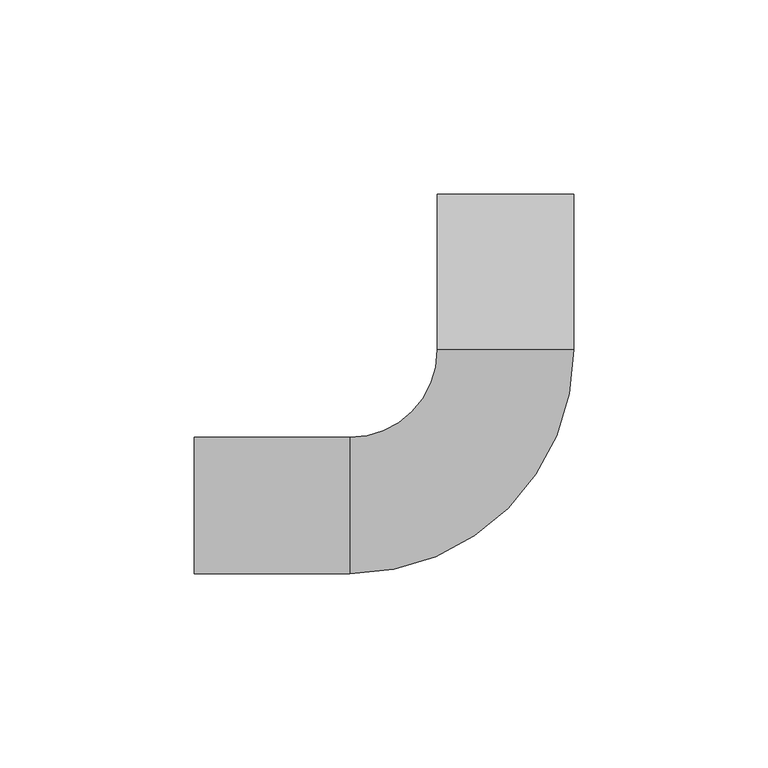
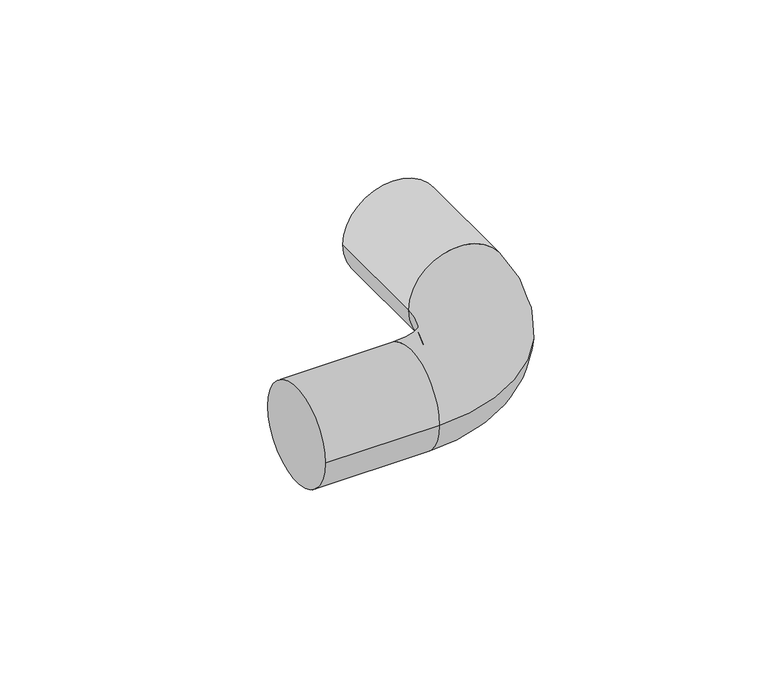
"""IFC4 building model written with IfcOpenShell, lengths in millimetres: cable carrier fitting geometry, Угол_90_соед._для_труб : Угол 90 соед. для трубы 32мм (15шт) серый."""

from ifc_helpers import new_model, si_unit, point, frame, origin, place, context, project, spatial, circle_curve, ellipse_curve, trimmed, source, transform, mapped, element, save
from ifc_brep_helpers import plane_surface, cylinder_surface, revolved_surface, advanced_brep


def cable_carrier_fitting_bbf9297c(model_context):
    return source(origin(), model_context, "Body", "AdvancedBrep", [
        advanced_brep(
        [(-80.0, -17.5, 0.0), (-80.0, 17.5, 0.0), (-40.0, -17.5, 0.0), (-40.0, 17.5, 0.0), (-17.5, 40.0, 0.0), (17.5, 40.0, 0.0), (17.5, 80.0, 0.0), (-17.5, 80.0, 0.0)],
        [
            (0, 1, circle_curve(frame((-80.0, 0.0, 0.0), z_axis=(-1.0, 0.0, 0.0), x_axis=(0.0, 1.0, 0.0)), 17.5)),
            (1, 0, circle_curve(frame((-80.0, 0.0, 0.0), z_axis=(-1.0, 0.0, 0.0), x_axis=(0.0, 1.0, 0.0)), 17.5)),
            (0, 2),
            (2, 3, circle_curve(frame((-40.0, 0.0, 0.0), z_axis=(-1.0, 0.0, 0.0), x_axis=(0.0, 1.0, 0.0)), 17.5)),
            (3, 1),
            (3, 2, circle_curve(frame((-40.0, 0.0, 0.0), z_axis=(-1.0, 0.0, 0.0), x_axis=(0.0, 1.0, 0.0)), 17.5)),
            (4, 3, circle_curve(frame((-40.0, 40.0, 0.0), z_axis=(0.0, 0.0, -1.0), x_axis=(0.0, -1.0, 0.0)), 22.5)),
            (2, 5, circle_curve(frame((-40.0, 40.0, 0.0), z_axis=(0.0, 0.0, 1.0), x_axis=(0.0, -1.0, 0.0)), 57.5)),
            (5, 4, circle_curve(frame((0.0, 40.0, 0.0), z_axis=(0.0, -1.0, 0.0), x_axis=(-1.0, 0.0, 0.0)), 17.5)),
            (4, 5, circle_curve(frame((0.0, 40.0, 0.0), z_axis=(0.0, -1.0, 0.0), x_axis=(-1.0, 0.0, 0.0)), 17.5)),
            (6, 7, circle_curve(frame((0.0, 80.0, 0.0), z_axis=(0.0, 1.0, 0.0), x_axis=(-1.0, 0.0, 0.0)), 17.5)),
            (7, 6, circle_curve(frame((0.0, 80.0, 0.0), z_axis=(0.0, 1.0, 0.0), x_axis=(-1.0, 0.0, 0.0)), 17.5)),
            (5, 6),
            (7, 4),
        ],
        [
            plane_surface(frame((-80.0, 0.0, 0.0), z_axis=(-1.0, 0.0, 0.0), x_axis=(0.0, 0.0, 1.0))),
            cylinder_surface(frame((-80.0, 0.0, 0.0), z_axis=(-1.0, 0.0, 0.0), x_axis=(0.0, 1.0, 0.0)), 17.5),
            revolved_surface(trimmed(ellipse_curve(frame((-40.0, 0.0, 0.0), z_axis=(-1.0, 0.0, 0.0), x_axis=(0.0, 1.0, 0.0)), 17.5, 17.5), [point((-40.0, -17.5, 0.0))], [point((-40.0, 17.5, 0.0))], True, "CARTESIAN"), (-40.0, 40.0, 0.0), (0.0, 0.0, 1.0)),
            revolved_surface(trimmed(ellipse_curve(frame((-40.0, 0.0, 0.0), z_axis=(-1.0, 0.0, 0.0), x_axis=(0.0, 1.0, 0.0)), 17.5, 17.5), [point((-40.0, 17.5, 0.0))], [point((-40.0, -17.5, 0.0))], True, "CARTESIAN"), (-40.0, 40.0, 0.0), (0.0, 0.0, 1.0)),
            plane_surface(frame((0.0, 80.0, 0.0), z_axis=(0.0, 1.0, 0.0), x_axis=(0.0, 0.0, 1.0))),
            cylinder_surface(frame((0.0, 40.0, 0.0), z_axis=(0.0, -1.0, 0.0), x_axis=(-1.0, 0.0, 0.0)), 17.5),
        ],
        [
            (0, [[1, 2]]),
            (1, [[-1, 3, 4, 5]]),
            (1, [[-2, -5, 6, -3]]),
            (2, [[7, -4, 8, 9]]),
            (3, [[-8, -6, -7, 10]]),
            (4, [[11, 12]]),
            (5, [[-9, 13, -12, 14]]),
            (5, [[-10, -14, -11, -13]]),
        ],
    ),
    ])


if __name__ == "__main__":
    model = new_model("IFC4")
    model_context = context("Model", 3, world=origin())
    ifc_project = project(units=[si_unit("LENGTHUNIT", "METRE", prefix="MILLI")], contexts=[model_context])
    site = spatial("IfcSite", under=ifc_project)
    building = spatial("IfcBuilding", under=site)
    placement = place(None, origin())
    cable_carrier_fitting_shape = cable_carrier_fitting_bbf9297c(model_context)
    element("IfcCableCarrierFitting", 1, ObjectType="Угол_90_соед._для_труб : Угол 90 соед. для трубы 32мм (15шт) серый", at=placement, inside=building, context=model_context, shape_type="MappedRepresentation", body=[
        mapped(cable_carrier_fitting_shape, transform((0.0, 0.0, 0.0), x_axis=(1.0, 0.0, 0.0), y_axis=(0.0, 1.0, 0.0), z_axis=(0.0, 0.0, 1.0))),
    ])
    save(model, "model.ifc")
